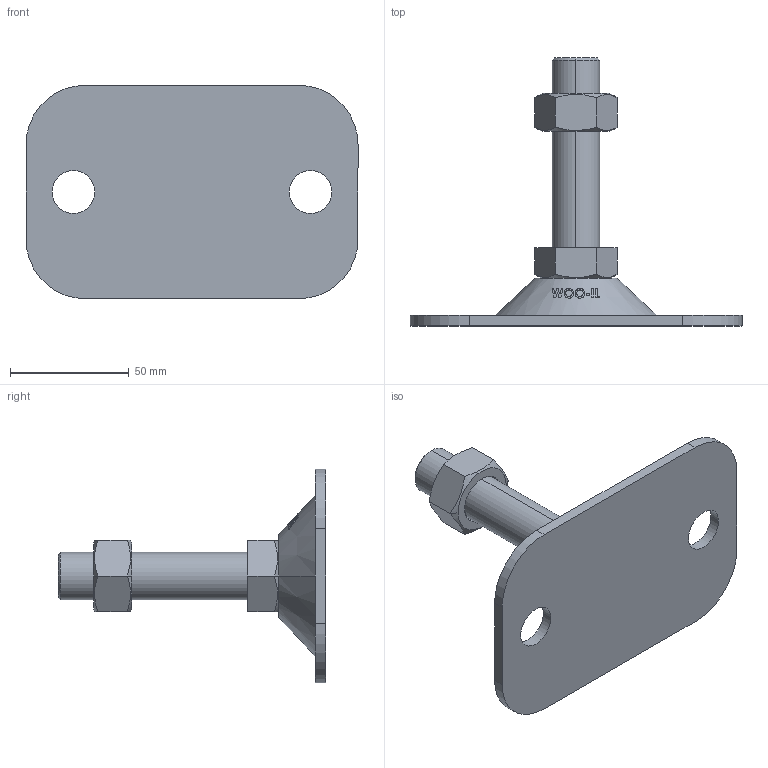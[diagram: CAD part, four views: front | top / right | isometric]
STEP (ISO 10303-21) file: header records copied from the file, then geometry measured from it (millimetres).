
FILE_DESCRIPTION (( 'STEP AP214' ), '1' );
FILE_NAME ('FABL90140-M20-80.step', '2021-03-28T23:53:55', ( '' ), ( '' ), 'SwSTEP 2.0', 'SolidWorks 2019', '' );
FILE_SCHEMA (( 'AUTOMOTIVE_DESIGN' ));
Length unit declared in the file: millimetre
Products named in the file (2): FABL90140-M20-80
Bounding box: 140 x 113 x 90 mm (x, y, z)
Volume: 127808 mm3; surface area: 36548.1 mm2
Topology: 2 solids, 2 shells, 130 faces, 333 edges, 218 vertices
Faces by surface type: plane 50, cylinder 40, cone 22, bspline 18
Entity records: 5583 total; most frequent: CARTESIAN_POINT 2625, ORIENTED_EDGE 666, DIRECTION 485, EDGE_CURVE 333, VERTEX_POINT 218, AXIS2_PLACEMENT_3D 178, EDGE_LOOP 147, B_SPLINE_CURVE_WITH_KNOTS 140
